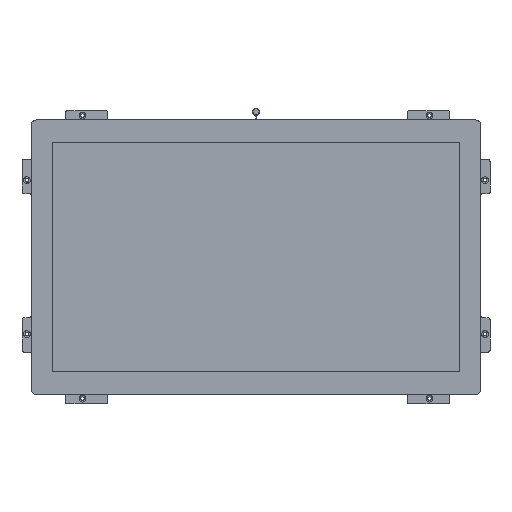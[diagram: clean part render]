
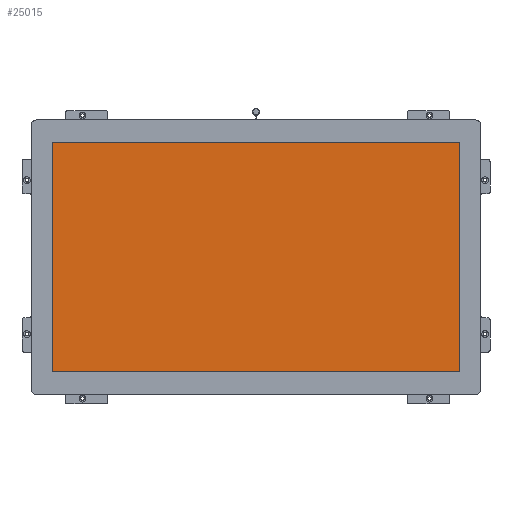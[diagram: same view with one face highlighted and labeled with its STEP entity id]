
A CAD part, top view. The second image highlights one B-rep face of the part: STEP entity #25015.
In plain terms, the highlighted planar face has unit normal (0, 0, 1).
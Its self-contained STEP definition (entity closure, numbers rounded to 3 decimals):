
#18727 = VECTOR ( 'NONE', #36459, 1000. ) ;
#25015 = ADVANCED_FACE ( 'NONE', ( #35390 ), #77366, .F. ) ;
#25966 = EDGE_CURVE ( 'NONE', #59338, #34300, #92108, .T. ) ;
#33338 = DIRECTION ( 'NONE',  ( 0., 0., -1. ) ) ;
#34300 = VERTEX_POINT ( 'NONE', #107967 ) ;
#35128 = LINE ( 'NONE', #95719, #133513 ) ;
#35390 = FACE_OUTER_BOUND ( 'NONE', #72188, .T. ) ;
#36459 = DIRECTION ( 'NONE',  ( 0., -1., 0. ) ) ;
#45019 = CARTESIAN_POINT ( 'NONE',  ( -1.82, -1.555, 17.45 ) ) ;
#45810 = AXIS2_PLACEMENT_3D ( 'NONE', #45019, #33338, #98016 ) ;
#50785 = CARTESIAN_POINT ( 'NONE',  ( -1.82, 132.695, 17.45 ) ) ;
#58898 = CARTESIAN_POINT ( 'NONE',  ( 236.68, 132.695, 17.45 ) ) ;
#59338 = VERTEX_POINT ( 'NONE', #58898 ) ;
#64738 = DIRECTION ( 'NONE',  ( 1., 0., 0. ) ) ;
#65432 = LINE ( 'NONE', #125399, #18727 ) ;
#67967 = CARTESIAN_POINT ( 'NONE',  ( 236.68, -1.555, 17.45 ) ) ;
#68090 = EDGE_CURVE ( 'NONE', #131327, #129657, #35128, .T. ) ;
#71421 = DIRECTION ( 'NONE',  ( -1., 0., 0. ) ) ;
#72188 = EDGE_LOOP ( 'NONE', ( #104901, #101655, #82069, #109323 ) ) ;
#73327 = EDGE_CURVE ( 'NONE', #34300, #131327, #65432, .T. ) ;
#77366 = PLANE ( 'NONE',  #45810 ) ;
#77516 = CARTESIAN_POINT ( 'NONE',  ( 236.68, -135.805, 17.45 ) ) ;
#82069 = ORIENTED_EDGE ( 'NONE', *, *, #25966, .T. ) ;
#90125 = EDGE_CURVE ( 'NONE', #129657, #59338, #99624, .T. ) ;
#92108 = LINE ( 'NONE', #50785, #120824 ) ;
#95719 = CARTESIAN_POINT ( 'NONE',  ( -1.82, -135.805, 17.45 ) ) ;
#98016 = DIRECTION ( 'NONE',  ( 0., -1., 0. ) ) ;
#99624 = LINE ( 'NONE', #67967, #102804 ) ;
#101655 = ORIENTED_EDGE ( 'NONE', *, *, #90125, .T. ) ;
#102804 = VECTOR ( 'NONE', #109989, 1000. ) ;
#104901 = ORIENTED_EDGE ( 'NONE', *, *, #68090, .T. ) ;
#107967 = CARTESIAN_POINT ( 'NONE',  ( -240.32, 132.695, 17.45 ) ) ;
#109323 = ORIENTED_EDGE ( 'NONE', *, *, #73327, .T. ) ;
#109989 = DIRECTION ( 'NONE',  ( 0., 1., 0. ) ) ;
#117757 = CARTESIAN_POINT ( 'NONE',  ( -240.32, -135.805, 17.45 ) ) ;
#120824 = VECTOR ( 'NONE', #71421, 1000. ) ;
#125399 = CARTESIAN_POINT ( 'NONE',  ( -240.32, -1.555, 17.45 ) ) ;
#129657 = VERTEX_POINT ( 'NONE', #77516 ) ;
#131327 = VERTEX_POINT ( 'NONE', #117757 ) ;
#133513 = VECTOR ( 'NONE', #64738, 1000. ) ;
